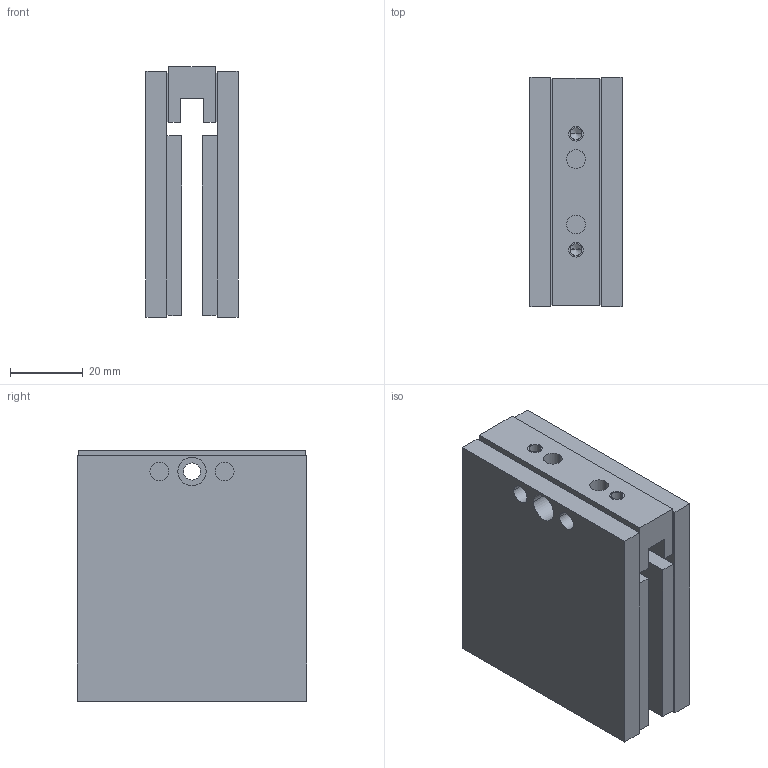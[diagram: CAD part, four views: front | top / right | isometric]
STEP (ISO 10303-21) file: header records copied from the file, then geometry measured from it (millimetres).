
FILE_DESCRIPTION((''),'2;1');
FILE_NAME('MW050L-0064','2007-01-14T',('saurabh.singhal'),(''),'PRO/ENGINEER BY PARAMETRIC TECHNOLOGY CORPORATION, 2005450','PRO/ENGINEER BY PARAMETRIC TECHNOLOGY CORPORATION, 2005450','');
FILE_SCHEMA(('CONFIG_CONTROL_DESIGN'));
Length unit declared in the file: millimetre
Products named in the file (1): MW050L-0064
Bounding box: 25.4 x 63.3 x 69 mm (x, y, z)
Volume: 83031.2 mm3; surface area: 24813.8 mm2
Topology: 1 solids, 3 shells, 84 faces, 203 edges, 133 vertices
Faces by surface type: plane 54, cylinder 26, cone 4
Entity records: 2472 total; most frequent: DIRECTION 425, CARTESIAN_POINT 417, ORIENTED_EDGE 390, EDGE_CURVE 199, VECTOR 143, LINE 143, AXIS2_PLACEMENT_3D 141, VERTEX_POINT 133
